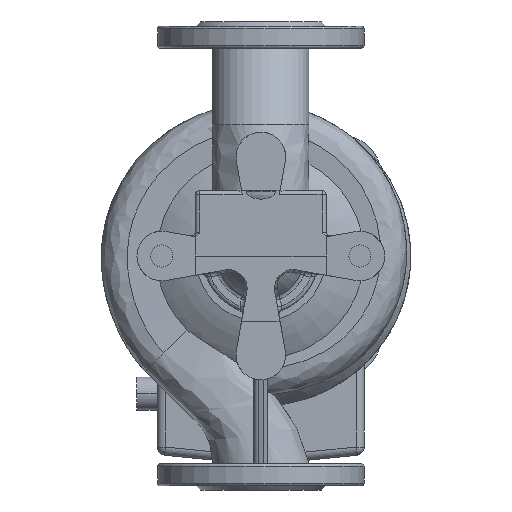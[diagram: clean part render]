
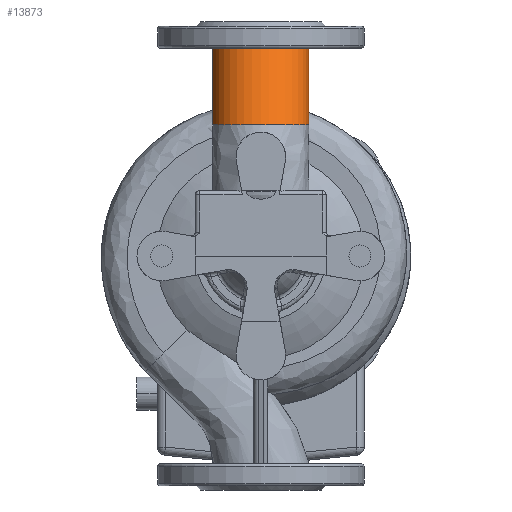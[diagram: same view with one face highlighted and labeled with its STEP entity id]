
A CAD part, front view. The second image highlights one B-rep face of the part: STEP entity #13873.
In plain terms, the highlighted free-form (B-spline) face has degree [3, 1] with [7, 2] control points.
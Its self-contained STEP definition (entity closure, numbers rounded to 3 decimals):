
#397 = EDGE_LOOP ( 'NONE', ( #6375, #15176, #20649, #11087 ) ) ;
#846 = AXIS2_PLACEMENT_3D ( 'NONE', #3569, #8261, #27030 ) ;
#1787 = CARTESIAN_POINT ( 'NONE',  ( -35., 0., 151. ) ) ;
#2456 = FACE_OUTER_BOUND ( 'NONE', #397, .T. ) ;
#2719 = CARTESIAN_POINT ( 'NONE',  ( -35., -32.221, 95.191 ) ) ;
#3526 = CARTESIAN_POINT ( 'NONE',  ( -35., -32.221, 95.191 ) ) ;
#3569 = CARTESIAN_POINT ( 'NONE',  ( 0., -32.221, 95.191 ) ) ;
#4461 = CARTESIAN_POINT ( 'NONE',  ( -35., -32.221, 95.191 ) ) ;
#5176 = AXIS2_PLACEMENT_3D ( 'NONE', #10732, #23567, #19154 ) ;
#6375 = ORIENTED_EDGE ( 'NONE', *, *, #26398, .F. ) ;
#6731 = CARTESIAN_POINT ( 'NONE',  ( 35., 0., 151. ) ) ;
#6802 = CARTESIAN_POINT ( 'NONE',  ( -35., -32.221, 95.191 ) ) ;
#7538 = VERTEX_POINT ( 'NONE', #1787 ) ;
#7971 = VERTEX_POINT ( 'NONE', #6802 ) ;
#8228 = EDGE_CURVE ( 'NONE', #14734, #14167, #24298, .T. ) ;
#8261 = DIRECTION ( 'NONE',  ( 0., 0., -1. ) ) ;
#8825 = EDGE_CURVE ( 'NONE', #14167, #7538, #17950, .T. ) ;
#10452 = CARTESIAN_POINT ( 'NONE',  ( 35., -32.221, 95.191 ) ) ;
#10730 = CARTESIAN_POINT ( 'NONE',  ( 35., 0., 151. ) ) ;
#10732 = CARTESIAN_POINT ( 'NONE',  ( 0., 0., 151. ) ) ;
#11025 = EDGE_CURVE ( 'NONE', #7971, #7538, #21327, .T. ) ;
#11087 = ORIENTED_EDGE ( 'NONE', *, *, #11025, .F. ) ;
#11136 = CARTESIAN_POINT ( 'NONE',  ( 35., -102.221, 95.191 ) ) ;
#12873 = CARTESIAN_POINT ( 'NONE',  ( -35., 0., 151. ) ) ;
#13207 = CARTESIAN_POINT ( 'NONE',  ( -35., 0., 151. ) ) ;
#13873 = ADVANCED_FACE ( 'NONE', ( #2456 ), #27069, .F. ) ;
#14167 = VERTEX_POINT ( 'NONE', #21180 ) ;
#14734 = VERTEX_POINT ( 'NONE', #10452 ) ;
#15176 = ORIENTED_EDGE ( 'NONE', *, *, #8228, .T. ) ;
#15819 = CIRCLE ( 'NONE', #846, 35. ) ;
#17209 = CARTESIAN_POINT ( 'NONE',  ( 35., 70., 151. ) ) ;
#17877 = CARTESIAN_POINT ( 'NONE',  ( -35., -70., 151. ) ) ;
#17950 = CIRCLE ( 'NONE', #5176, 35. ) ;
#19154 = DIRECTION ( 'NONE',  ( -1., 0., 0. ) ) ;
#19281 = CARTESIAN_POINT ( 'NONE',  ( -35., 37.779, 95.191 ) ) ;
#19548 = CARTESIAN_POINT ( 'NONE',  ( 35., -70., 151. ) ) ;
#20086 = CARTESIAN_POINT ( 'NONE',  ( -35., 0., 151. ) ) ;
#20649 = ORIENTED_EDGE ( 'NONE', *, *, #8825, .T. ) ;
#21180 = CARTESIAN_POINT ( 'NONE',  ( 35., 0., 151. ) ) ;
#21327 = B_SPLINE_CURVE_WITH_KNOTS ( 'NONE', 1,
 ( #4461, #12873 ),
 .UNSPECIFIED., .F., .F.,
 ( 2, 2 ),
 ( 0., 1. ),
 .UNSPECIFIED. ) ;
#21623 = CARTESIAN_POINT ( 'NONE',  ( 35., 37.779, 95.191 ) ) ;
#21761 = CARTESIAN_POINT ( 'NONE',  ( -35., 70., 151. ) ) ;
#23150 = CARTESIAN_POINT ( 'NONE',  ( 35., -32.221, 95.191 ) ) ;
#23567 = DIRECTION ( 'NONE',  ( 0., 0., -1. ) ) ;
#24298 = B_SPLINE_CURVE_WITH_KNOTS ( 'NONE', 1,
 ( #23150, #10730 ),
 .UNSPECIFIED., .F., .F.,
 ( 2, 2 ),
 ( 0., 1. ),
 .UNSPECIFIED. ) ;
#24631 = CARTESIAN_POINT ( 'NONE',  ( -35., -102.221, 95.191 ) ) ;
#25632 = CARTESIAN_POINT ( 'NONE',  ( 35., -32.221, 95.191 ) ) ;
#26398 = EDGE_CURVE ( 'NONE', #14734, #7971, #15819, .T. ) ;
#27030 = DIRECTION ( 'NONE',  ( -1., 0., 0. ) ) ;
#27069 =( BOUNDED_SURFACE ( )  B_SPLINE_SURFACE ( 3, 1, ( 
 ( #2719, #13207 ),
 ( #19281, #21761 ),
 ( #21623, #17209 ),
 ( #25632, #6731 ),
 ( #11136, #19548 ),
 ( #24631, #17877 ),
 ( #3526, #20086 ) ),
 .UNSPECIFIED., .T., .F., .F. ) 
 B_SPLINE_SURFACE_WITH_KNOTS ( ( 4, 3, 4 ),
 ( 2, 2 ),
 ( 0., 0.5, 1. ),
 ( 0., 1. ),
 .UNSPECIFIED. ) 
 GEOMETRIC_REPRESENTATION_ITEM ( )  RATIONAL_B_SPLINE_SURFACE ( (
 ( 1., 1.),
 ( 0.333, 0.333),
 ( 0.333, 0.333),
 ( 1., 1.),
 ( 0.333, 0.333),
 ( 0.333, 0.333),
 ( 1., 1.) ) ) 
 REPRESENTATION_ITEM ( '' )  SURFACE ( )  );
